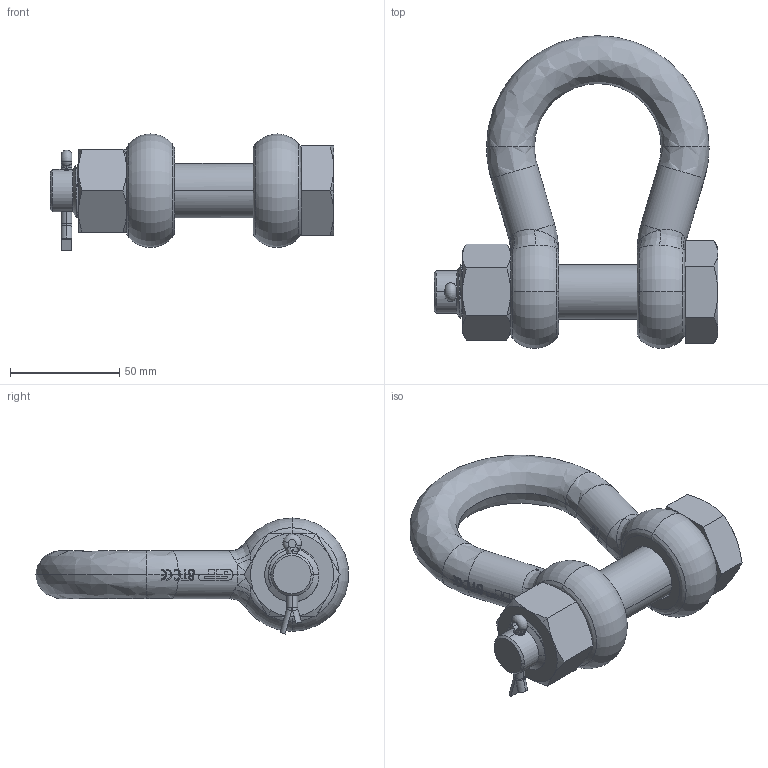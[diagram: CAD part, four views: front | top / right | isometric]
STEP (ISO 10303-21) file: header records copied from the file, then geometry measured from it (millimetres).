
FILE_DESCRIPTION (( 'STEP AP203' ), '1' );
FILE_NAME ('SUGHMB22.STEP', '2009-08-26T14:05:40', ( '.' ), ( '.' ), 'SwSTEP 2.0', 'SolidWorks 2009', '' );
FILE_SCHEMA (( 'CONFIG_CONTROL_DESIGN' ));
Length unit declared in the file: millimetre
Products named in the file (5): SUGHMB22; 9,5; 9,5_1; 9,5_2; 9,5_3
Assembly tree (4 placements, depth 2):
  SUGHMB22
    9,5_3
    9,5
    9,5_2
    9,5_1
Bounding box: 130 x 143.31 x 53.17 mm (x, y, z)
Volume: 231827.9 mm3; surface area: 51816.6 mm2
Topology: 4 solids, 4 shells, 746 faces, 2055 edges, 1334 vertices
Faces by surface type: bspline 328, plane 255, cylinder 123, cone 29, torus 11
Entity records: 38952 total; most frequent: CARTESIAN_POINT 22384, ORIENTED_EDGE 4094, DIRECTION 2145, EDGE_CURVE 2047, VERTEX_POINT 1334, LINE 897, VECTOR 897, B_SPLINE_CURVE_WITH_KNOTS 815
